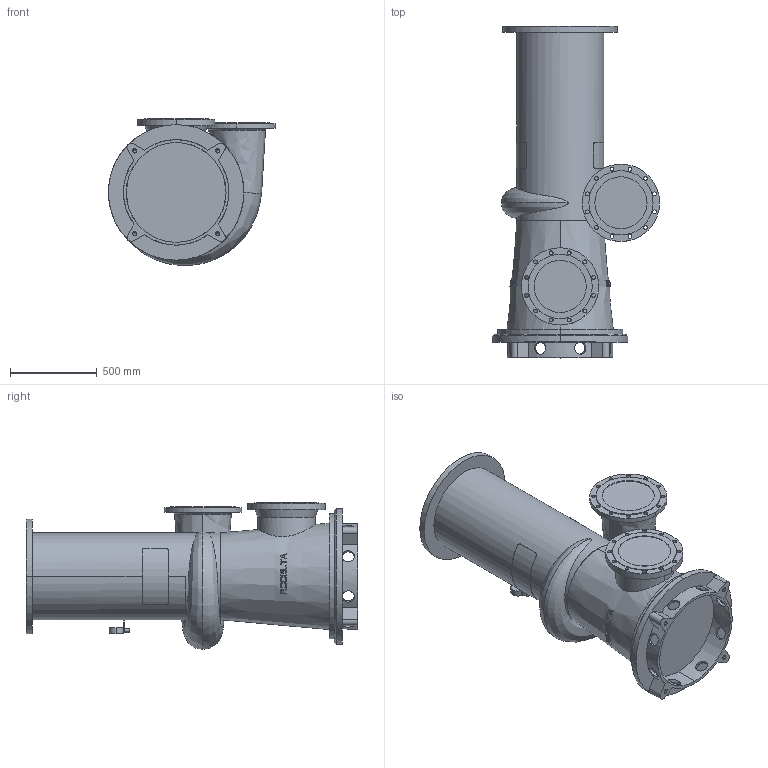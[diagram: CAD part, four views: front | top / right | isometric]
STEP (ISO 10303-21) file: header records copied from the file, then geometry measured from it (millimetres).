
FILE_DESCRIPTION((''),'2;1');
FILE_NAME('12-510_ASM','2024-08-05T',('Lyritlocal'),(''),'PRO/ENGINEER BY PARAMETRIC TECHNOLOGY CORPORATION, 2016360','PRO/ENGINEER BY PARAMETRIC TECHNOLOGY CORPORATION, 2016360','');
FILE_SCHEMA(('CONFIG_CONTROL_DESIGN'));
Length unit declared in the file: millimetre
Products named in the file (3): 12-510; 12-510_VOET; 12-510_ASM
Assembly tree (2 placements, depth 2):
  12-510_ASM
    12-510
    12-510_VOET
Bounding box: 962.5 x 1910 x 845.5 mm (x, y, z)
Volume: 485964673.1 mm3; surface area: 6451901.8 mm2
Topology: 2 solids, 6 shells, 503 faces, 1366 edges, 900 vertices
Faces by surface type: plane 323, cylinder 138, cone 36, bspline 6
Entity records: 18234 total; most frequent: CARTESIAN_POINT 5945, ORIENTED_EDGE 2700, DIRECTION 2279, EDGE_CURVE 1358, VERTEX_POINT 900, AXIS2_PLACEMENT_3D 896, EDGE_LOOP 608, FACE_OUTER_BOUND 503
